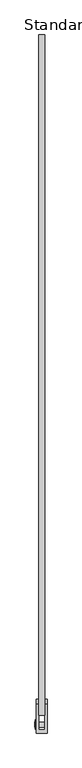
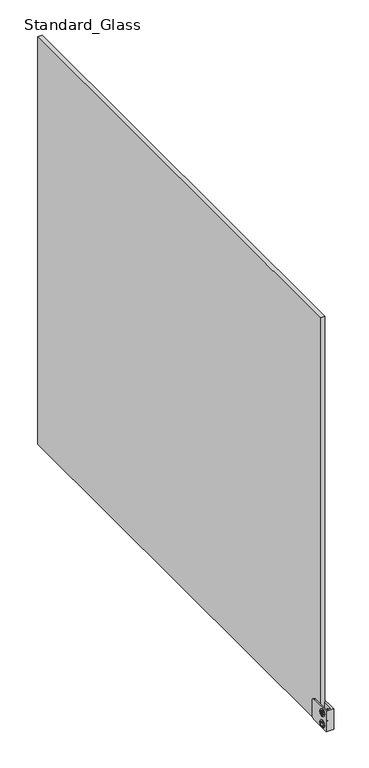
"""IFC4 building model written with IfcOpenShell, lengths in millimetres: railing geometry, Baluster-Excess-Fill-Straight-Panel-VIVA : Standard_Glass."""

from ifc_helpers import new_model, si_unit, point, frame, origin, place, context, project, spatial, polyline, circle_curve, ellipse_curve, trimmed, outline, extrude, source, transform, mapped, element, save
from ifc_brep_helpers import plane_surface, cylinder_surface, revolved_surface, advanced_brep


def standard_glass_423f5456(model_context):
    return source(origin(), model_context, "Body", "SolidModel", [
        advanced_brep(
        [(36.7665, -1044.7442278, 138.7358896), (24.0665, -1044.7442278, 138.7358896), (24.0665, -1037.653336, 138.7358896), (36.7665, -1037.653336, 138.7358896), (24.0665, -1048.606571, 138.7358896), (24.0665, -1033.7909928, 138.7358896), (23.199388, -1042.8548573, 138.7358896), (36.7665, -1042.8548573, 138.7358896), (36.7665, -1039.5427065, 138.7358896), (23.199388, -1039.5427065, 138.7358896), (23.2316551, -1048.606571, 138.7358896), (21.9503831, -1047.325299, 138.7358896), (21.9503831, -1035.0722649, 138.7358896), (23.2316551, -1033.7909928, 138.7358896), (21.9503831, -1045.4973775, 138.7358896), (21.9503831, -1036.9001864, 138.7358896), (23.199388, -1045.4973775, 138.7358896), (23.199388, -1036.9001864, 138.7358896)],
        [
            (0, 1),
            (1, 2, circle_curve(frame((24.0665, -1041.1987819, 138.7358896), z_axis=(1.0, 0.0, 0.0), x_axis=(0.0, 1.0, 0.0)), 3.5454459)),
            (2, 3),
            (3, 0, circle_curve(frame((36.7665, -1041.1987819, 138.7358896), z_axis=(-1.0, 0.0, 0.0), x_axis=(0.0, 1.0, 0.0)), 3.5454459)),
            (2, 1, circle_curve(frame((24.0665, -1041.1987819, 138.7358896), z_axis=(1.0, 0.0, 0.0), x_axis=(0.0, 1.0, 0.0)), 3.5454459)),
            (0, 3, circle_curve(frame((36.7665, -1041.1987819, 138.7358896), z_axis=(-1.0, 0.0, 0.0), x_axis=(0.0, 1.0, 0.0)), 3.5454459)),
            (1, 4),
            (4, 5, circle_curve(frame((24.0665, -1041.1987819, 138.7358896), z_axis=(1.0, 0.0, 0.0), x_axis=(0.0, 1.0, 0.0)), 7.4077891)),
            (5, 2),
            (5, 4, circle_curve(frame((24.0665, -1041.1987819, 138.7358896), z_axis=(1.0, 0.0, 0.0), x_axis=(0.0, 1.0, 0.0)), 7.4077891)),
            (6, 7),
            (7, 8, circle_curve(frame((36.7665, -1041.1987819, 138.7358896), z_axis=(1.0, 0.0, 0.0), x_axis=(0.0, 1.0, 0.0)), 1.6560754)),
            (8, 9),
            (9, 6, circle_curve(frame((23.199388, -1041.1987819, 138.7358896), z_axis=(-1.0, 0.0, 0.0), x_axis=(0.0, 1.0, 0.0)), 1.6560754)),
            (8, 7, circle_curve(frame((36.7665, -1041.1987819, 138.7358896), z_axis=(1.0, 0.0, 0.0), x_axis=(0.0, 1.0, 0.0)), 1.6560754)),
            (6, 9, circle_curve(frame((23.199388, -1041.1987819, 138.7358896), z_axis=(-1.0, 0.0, 0.0), x_axis=(0.0, 1.0, 0.0)), 1.6560754)),
            (10, 11, circle_curve(frame((23.2316551, -1047.325299, 138.7358896), z_axis=(0.0, 0.0, -1.0), x_axis=(0.0, -1.0, 0.0)), 1.281272)),
            (11, 12, circle_curve(frame((21.9503831, -1041.1987819, 138.7358896), z_axis=(1.0, 0.0, 0.0), x_axis=(0.0, 1.0, 0.0)), 6.1265171)),
            (12, 13, circle_curve(frame((23.2316551, -1035.0722649, 138.7358896), z_axis=(0.0, 0.0, -1.0), x_axis=(0.0, 1.0, 0.0)), 1.281272)),
            (13, 10, circle_curve(frame((23.2316551, -1041.1987819, 138.7358896), z_axis=(-1.0, 0.0, 0.0), x_axis=(0.0, 1.0, 0.0)), 7.4077891)),
            (12, 11, circle_curve(frame((21.9503831, -1041.1987819, 138.7358896), z_axis=(1.0, 0.0, 0.0), x_axis=(0.0, 1.0, 0.0)), 6.1265171)),
            (10, 13, circle_curve(frame((23.2316551, -1041.1987819, 138.7358896), z_axis=(-1.0, 0.0, 0.0), x_axis=(0.0, 1.0, 0.0)), 7.4077891)),
            (11, 14),
            (14, 15, circle_curve(frame((21.9503831, -1041.1987819, 138.7358896), z_axis=(1.0, 0.0, 0.0), x_axis=(0.0, 1.0, 0.0)), 4.2985955)),
            (15, 12),
            (15, 14, circle_curve(frame((21.9503831, -1041.1987819, 138.7358896), z_axis=(1.0, 0.0, 0.0), x_axis=(0.0, 1.0, 0.0)), 4.2985955)),
            (4, 10),
            (13, 5),
            (7, 0),
            (3, 8),
            (14, 16),
            (16, 17, circle_curve(frame((23.199388, -1041.1987819, 138.7358896), z_axis=(1.0, 0.0, 0.0), x_axis=(0.0, 1.0, 0.0)), 4.2985955)),
            (17, 15),
            (17, 16, circle_curve(frame((23.199388, -1041.1987819, 138.7358896), z_axis=(1.0, 0.0, 0.0), x_axis=(0.0, 1.0, 0.0)), 4.2985955)),
            (16, 6),
            (9, 17),
        ],
        [
            cylinder_surface(frame((27.5632331, -1041.1987819, 138.7358896), z_axis=(1.0, 0.0, 0.0), x_axis=(0.0, 1.0, 0.0)), 3.5454459),
            plane_surface(frame((24.0665, -1041.1987819, 138.7358896), z_axis=(1.0, 0.0, 0.0), x_axis=(0.0, 1.0, 0.0))),
            revolved_surface(polyline([(36.7665, -1039.5427065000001, 138.7358896), (23.199388, -1039.5427065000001, 138.7358896)]), (27.5632331, -1041.1987819, 138.7358896), (1.0, 0.0, 0.0)),
            revolved_surface(trimmed(ellipse_curve(frame((23.2316551, -1035.0722649, 138.7358896), z_axis=(0.0, 0.0, -1.0), x_axis=(0.0, 1.0, 0.0)), 1.281272, 1.281272), [point((21.9503831, -1035.0722649, 138.7358896))], [point((23.2316551, -1033.7909928, 138.7358896))], True, "CARTESIAN"), (27.5632331, -1041.1987819, 138.7358896), (1.0, 0.0, 0.0)),
            plane_surface(frame((21.9503831, -1041.1987819, 138.7358896), z_axis=(-1.0, 0.0, 0.0), x_axis=(0.0, 1.0, 0.0))),
            cylinder_surface(frame((27.5632331, -1041.1987819, 138.7358896), z_axis=(1.0, 0.0, 0.0), x_axis=(0.0, 1.0, 0.0)), 7.4077891),
            plane_surface(frame((36.7665, -1041.1987819, 138.7358896), z_axis=(1.0, 0.0, 0.0), x_axis=(0.0, 1.0, 0.0))),
            revolved_surface(polyline([(23.199388, -1036.9001864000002, 138.7358896), (21.9503831, -1036.9001864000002, 138.7358896)]), (27.5632331, -1041.1987819, 138.7358896), (1.0, 0.0, 0.0)),
            plane_surface(frame((23.199388, -1041.1987819, 138.7358896), z_axis=(-1.0, 0.0, 0.0), x_axis=(0.0, 1.0, 0.0))),
        ],
        [
            (0, [[1, 2, 3, 4]]),
            (0, [[-3, 5, -1, 6]]),
            (1, [[7, 8, 9, -2]]),
            (1, [[-9, 10, -7, -5]]),
            (2, [[11, 12, 13, 14]]),
            (2, [[-13, 15, -11, 16]]),
            (3, [[17, 18, 19, 20]]),
            (3, [[-19, 21, -17, 22]]),
            (4, [[23, 24, 25, -18]]),
            (4, [[-25, 26, -23, -21]]),
            (5, [[27, -20, 28, -8]]),
            (5, [[-28, -22, -27, -10]]),
            (6, [[29, -4, 30, -12]]),
            (6, [[-30, -6, -29, -15]]),
            (7, [[31, 32, 33, -24]]),
            (7, [[-33, 34, -31, -26]]),
            (8, [[35, -14, 36, -32]]),
            (8, [[-36, -16, -35, -34]]),
        ],
    ),
        advanced_brep(
        [(36.7665, -1044.7442278, 114.1296396), (24.0665, -1044.7442278, 114.1296396), (24.0665, -1037.653336, 114.1296396), (36.7665, -1037.653336, 114.1296396), (24.0665, -1048.606571, 114.1296396), (24.0665, -1033.7909928, 114.1296396), (23.199388, -1042.8548573, 114.1296396), (36.7665, -1042.8548573, 114.1296396), (36.7665, -1039.5427065, 114.1296396), (23.199388, -1039.5427065, 114.1296396), (23.2316551, -1048.606571, 114.1296396), (21.9503831, -1047.325299, 114.1296396), (21.9503831, -1035.0722649, 114.1296396), (23.2316551, -1033.7909928, 114.1296396), (21.9503831, -1045.4973775, 114.1296396), (21.9503831, -1036.9001864, 114.1296396), (23.199388, -1045.4973775, 114.1296396), (23.199388, -1036.9001864, 114.1296396)],
        [
            (0, 1),
            (1, 2, circle_curve(frame((24.0665, -1041.1987819, 114.1296396), z_axis=(1.0, 0.0, 0.0), x_axis=(0.0, 1.0, 0.0)), 3.5454459)),
            (2, 3),
            (3, 0, circle_curve(frame((36.7665, -1041.1987819, 114.1296396), z_axis=(-1.0, 0.0, 0.0), x_axis=(0.0, 1.0, 0.0)), 3.5454459)),
            (2, 1, circle_curve(frame((24.0665, -1041.1987819, 114.1296396), z_axis=(1.0, 0.0, 0.0), x_axis=(0.0, 1.0, 0.0)), 3.5454459)),
            (0, 3, circle_curve(frame((36.7665, -1041.1987819, 114.1296396), z_axis=(-1.0, 0.0, 0.0), x_axis=(0.0, 1.0, 0.0)), 3.5454459)),
            (1, 4),
            (4, 5, circle_curve(frame((24.0665, -1041.1987819, 114.1296396), z_axis=(1.0, 0.0, 0.0), x_axis=(0.0, 1.0, 0.0)), 7.4077891)),
            (5, 2),
            (5, 4, circle_curve(frame((24.0665, -1041.1987819, 114.1296396), z_axis=(1.0, 0.0, 0.0), x_axis=(0.0, 1.0, 0.0)), 7.4077891)),
            (6, 7),
            (7, 8, circle_curve(frame((36.7665, -1041.1987819, 114.1296396), z_axis=(1.0, 0.0, 0.0), x_axis=(0.0, 1.0, 0.0)), 1.6560754)),
            (8, 9),
            (9, 6, circle_curve(frame((23.199388, -1041.1987819, 114.1296396), z_axis=(-1.0, 0.0, 0.0), x_axis=(0.0, 1.0, 0.0)), 1.6560754)),
            (8, 7, circle_curve(frame((36.7665, -1041.1987819, 114.1296396), z_axis=(1.0, 0.0, 0.0), x_axis=(0.0, 1.0, 0.0)), 1.6560754)),
            (6, 9, circle_curve(frame((23.199388, -1041.1987819, 114.1296396), z_axis=(-1.0, 0.0, 0.0), x_axis=(0.0, 1.0, 0.0)), 1.6560754)),
            (10, 11, circle_curve(frame((23.2316551, -1047.325299, 114.1296396), z_axis=(0.0, 0.0, -1.0), x_axis=(0.0, -1.0, 0.0)), 1.281272)),
            (11, 12, circle_curve(frame((21.9503831, -1041.1987819, 114.1296396), z_axis=(1.0, 0.0, 0.0), x_axis=(0.0, 1.0, 0.0)), 6.1265171)),
            (12, 13, circle_curve(frame((23.2316551, -1035.0722649, 114.1296396), z_axis=(0.0, 0.0, -1.0), x_axis=(0.0, 1.0, 0.0)), 1.281272)),
            (13, 10, circle_curve(frame((23.2316551, -1041.1987819, 114.1296396), z_axis=(-1.0, 0.0, 0.0), x_axis=(0.0, 1.0, 0.0)), 7.4077891)),
            (12, 11, circle_curve(frame((21.9503831, -1041.1987819, 114.1296396), z_axis=(1.0, 0.0, 0.0), x_axis=(0.0, 1.0, 0.0)), 6.1265171)),
            (10, 13, circle_curve(frame((23.2316551, -1041.1987819, 114.1296396), z_axis=(-1.0, 0.0, 0.0), x_axis=(0.0, 1.0, 0.0)), 7.4077891)),
            (11, 14),
            (14, 15, circle_curve(frame((21.9503831, -1041.1987819, 114.1296396), z_axis=(1.0, 0.0, 0.0), x_axis=(0.0, 1.0, 0.0)), 4.2985955)),
            (15, 12),
            (15, 14, circle_curve(frame((21.9503831, -1041.1987819, 114.1296396), z_axis=(1.0, 0.0, 0.0), x_axis=(0.0, 1.0, 0.0)), 4.2985955)),
            (7, 0),
            (3, 8),
            (4, 10),
            (13, 5),
            (14, 16),
            (16, 17, circle_curve(frame((23.199388, -1041.1987819, 114.1296396), z_axis=(1.0, 0.0, 0.0), x_axis=(0.0, 1.0, 0.0)), 4.2985955)),
            (17, 15),
            (17, 16, circle_curve(frame((23.199388, -1041.1987819, 114.1296396), z_axis=(1.0, 0.0, 0.0), x_axis=(0.0, 1.0, 0.0)), 4.2985955)),
            (16, 6),
            (9, 17),
        ],
        [
            cylinder_surface(frame((27.5632331, -1041.1987819, 114.1296396), z_axis=(1.0, 0.0, 0.0), x_axis=(0.0, 1.0, 0.0)), 3.5454459),
            plane_surface(frame((24.0665, -1041.1987819, 114.1296396), z_axis=(1.0, 0.0, 0.0), x_axis=(0.0, 1.0, 0.0))),
            revolved_surface(polyline([(36.7665, -1039.5427065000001, 114.1296396), (23.199388, -1039.5427065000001, 114.1296396)]), (27.5632331, -1041.1987819, 114.1296396), (1.0, 0.0, 0.0)),
            revolved_surface(trimmed(ellipse_curve(frame((23.2316551, -1035.0722649, 114.1296396), z_axis=(0.0, 0.0, -1.0), x_axis=(0.0, 1.0, 0.0)), 1.281272, 1.281272), [point((21.9503831, -1035.0722649, 114.1296396))], [point((23.2316551, -1033.7909928, 114.1296396))], True, "CARTESIAN"), (27.5632331, -1041.1987819, 114.1296396), (1.0, 0.0, 0.0)),
            plane_surface(frame((21.9503831, -1041.1987819, 114.1296396), z_axis=(-1.0, 0.0, 0.0), x_axis=(0.0, 1.0, 0.0))),
            plane_surface(frame((36.7665, -1041.1987819, 114.1296396), z_axis=(1.0, 0.0, 0.0), x_axis=(0.0, 1.0, 0.0))),
            cylinder_surface(frame((27.5632331, -1041.1987819, 114.1296396), z_axis=(1.0, 0.0, 0.0), x_axis=(0.0, 1.0, 0.0)), 7.4077891),
            revolved_surface(polyline([(23.199388, -1036.9001864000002, 114.1296396), (21.9503831, -1036.9001864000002, 114.1296396)]), (27.5632331, -1041.1987819, 114.1296396), (1.0, 0.0, 0.0)),
            plane_surface(frame((23.199388, -1041.1987819, 114.1296396), z_axis=(-1.0, 0.0, 0.0), x_axis=(0.0, 1.0, 0.0))),
        ],
        [
            (0, [[1, 2, 3, 4]]),
            (0, [[-3, 5, -1, 6]]),
            (1, [[7, 8, 9, -2]]),
            (1, [[-9, 10, -7, -5]]),
            (2, [[11, 12, 13, 14]]),
            (2, [[-13, 15, -11, 16]]),
            (3, [[17, 18, 19, 20]]),
            (3, [[-19, 21, -17, 22]]),
            (4, [[23, 24, 25, -18]]),
            (4, [[-25, 26, -23, -21]]),
            (5, [[27, -4, 28, -12]]),
            (5, [[-28, -6, -27, -15]]),
            (6, [[29, -20, 30, -8]]),
            (6, [[-30, -22, -29, -10]]),
            (7, [[31, 32, 33, -24]]),
            (7, [[-33, 34, -31, -26]]),
            (8, [[35, -14, 36, -32]]),
            (8, [[-36, -16, -35, -34]]),
        ],
    ),
        extrude(outline(polyline([(-1045.2927102, 114.1296396), (-1043.2457461, 117.6750855), (-1039.1518178, 117.6750855), (-1037.1048536, 114.1296396), (-1039.1518178, 110.5841937), (-1043.2457461, 110.5841937), (-1045.2927102, 114.1296396)])), frame((21.7024185, 0.0, 0.0), z_axis=(1.0, 0.0, 0.0), x_axis=(0.0, 1.0, 0.0)), (0.0, 0.0, 1.0), 1.4969696),
        advanced_brep(
        [(24.0665, -1053.8321267, 148.6577646), (24.0665, -1009.3821267, 148.6577646), (24.0665, -1003.0321267, 142.3077646), (24.0665, -1003.0321267, 110.5577646), (24.0665, -1009.3821267, 104.2077646), (24.0665, -1053.8321267, 104.2077646), (39.9415, -1053.8321267, 148.6577646), (39.9415, -1053.8321267, 104.2077646), (39.9415, -1009.3821267, 104.2077646), (39.9415, -1003.0321267, 110.5577646), (39.9415, -1003.0321267, 142.3077646), (39.9415, -1009.3821267, 148.6577646), (27.2415, -1009.3821267, 104.2077646), (27.2415, -1049.1140463, 104.2077646), (36.7665, -1049.1140463, 104.2077646), (36.7665, -1009.3821267, 104.2077646), (27.2415, -1049.1140463, 148.6577646), (36.7665, -1049.1140463, 148.6577646), (27.2415, -1003.0321267, 110.5577646), (27.2415, -1003.0321267, 142.3077646), (27.2415, -1009.3821267, 148.6577646), (36.7665, -1009.3821267, 148.6577646), (36.7665, -1003.0321267, 142.3077646), (36.7665, -1003.0321267, 110.5577646)],
        [
            (0, 1),
            (1, 2, circle_curve(frame((24.0665, -1009.3821267, 142.3077646), z_axis=(-1.0, 0.0, 0.0), x_axis=(0.0, 1.0, 0.0)), 6.35)),
            (2, 3),
            (3, 4, circle_curve(frame((24.0665, -1009.3821267, 110.5577646), z_axis=(-1.0, 0.0, 0.0), x_axis=(0.0, 1.0, 0.0)), 6.35)),
            (4, 5),
            (5, 0),
            (6, 7),
            (7, 8),
            (8, 9, circle_curve(frame((39.9415, -1009.3821267, 110.5577646), z_axis=(1.0, 0.0, 0.0), x_axis=(0.0, 1.0, 0.0)), 6.35)),
            (9, 10),
            (10, 11, circle_curve(frame((39.9415, -1009.3821267, 142.3077646), z_axis=(1.0, 0.0, 0.0), x_axis=(0.0, 1.0, 0.0)), 6.35)),
            (11, 6),
            (5, 7),
            (6, 0),
            (4, 12),
            (12, 13),
            (13, 14),
            (14, 15),
            (15, 8),
            (13, 16),
            (16, 17),
            (17, 14),
            (12, 18, circle_curve(frame((27.2415, -1009.3821267, 110.5577646), z_axis=(1.0, 0.0, 0.0), x_axis=(0.0, 1.0, 0.0)), 6.35)),
            (18, 19),
            (19, 20, circle_curve(frame((27.2415, -1009.3821267, 142.3077646), z_axis=(1.0, 0.0, 0.0), x_axis=(0.0, 1.0, 0.0)), 6.35)),
            (20, 16),
            (17, 21),
            (21, 22, circle_curve(frame((36.7665, -1009.3821267, 142.3077646), z_axis=(-1.0, 0.0, 0.0), x_axis=(0.0, 1.0, 0.0)), 6.35)),
            (22, 23),
            (23, 15, circle_curve(frame((36.7665, -1009.3821267, 110.5577646), z_axis=(-1.0, 0.0, 0.0), x_axis=(0.0, 1.0, 0.0)), 6.35)),
            (23, 9),
            (3, 18),
            (22, 10),
            (2, 19),
            (21, 11),
            (1, 20),
        ],
        [
            plane_surface(frame((24.0665, -1053.8321267, 104.2077646), z_axis=(-1.0, 0.0, 0.0), x_axis=(0.0, 0.0, -1.0))),
            plane_surface(frame((39.9415, -1053.8321267, 104.2077646), z_axis=(1.0, 0.0, 0.0), x_axis=(0.0, 0.0, 1.0))),
            plane_surface(frame((24.0665, -1053.8321267, 148.6577646), z_axis=(0.0, -1.0, 0.0), x_axis=(1.0, 0.0, 0.0))),
            plane_surface(frame((24.0665, -1053.8321267, 104.2077646), z_axis=(0.0, 0.0, -1.0), x_axis=(1.0, 0.0, 0.0))),
            plane_surface(frame((36.7665, -1049.1140463, 161.3577646), z_axis=(0.0, 1.0, 0.0), x_axis=(0.0, 0.0, -1.0))),
            plane_surface(frame((27.2415, -1049.1140463, 161.3577646), z_axis=(1.0, 0.0, 0.0), x_axis=(0.0, 0.0, -1.0))),
            plane_surface(frame((36.7665, -990.3321267, 161.3577646), z_axis=(-1.0, 0.0, 0.0), x_axis=(0.0, 0.0, -1.0))),
            cylinder_surface(frame((39.9415, -1009.3821267, 110.5577646), z_axis=(-1.0, 0.0, 0.0), x_axis=(0.0, 1.0, 0.0)), 6.35),
            plane_surface(frame((24.0665, -1003.0321267, 110.5577646), z_axis=(0.0, 1.0, 0.0), x_axis=(1.0, 0.0, 0.0))),
            cylinder_surface(frame((39.9415, -1009.3821267, 142.3077646), z_axis=(-1.0, 0.0, 0.0), x_axis=(0.0, 1.0, 0.0)), 6.35),
            plane_surface(frame((24.0665, -1009.3821267, 148.6577646), z_axis=(0.0, 0.0, 1.0), x_axis=(1.0, 0.0, 0.0))),
        ],
        [
            (0, [[1, 2, 3, 4, 5, 6]]),
            (1, [[7, 8, 9, 10, 11, 12]]),
            (2, [[13, -7, 14, -6]]),
            (3, [[15, 16, 17, 18, 19, -8, -13, -5]]),
            (4, [[-17, 20, 21, 22]]),
            (5, [[-16, 23, 24, 25, 26, -20]]),
            (6, [[27, 28, 29, 30, -18, -22]]),
            (7, [[-19, -30, 31, -9]]),
            (7, [[32, -23, -15, -4]]),
            (8, [[-31, -29, 33, -10]]),
            (8, [[34, -24, -32, -3]]),
            (9, [[-33, -28, 35, -11]]),
            (9, [[36, -25, -34, -2]]),
            (10, [[-14, -12, -35, -27, -21, -26, -36, -1]]),
        ],
    ),
        extrude(outline(polyline([(36.7665, -1.0851207), (36.7665, -1026.8890463), (27.2415, -1026.8890463), (27.2415, -1.0851207), (36.7665, -1.0851207)])), frame((0.0, 0.0, 101.6), z_axis=(0.0, 0.0, 1.0), x_axis=(1.0, 0.0, 0.0)), (0.0, 0.0, 1.0), 901.7),
    ])


if __name__ == "__main__":
    model = new_model("IFC4")
    model_context = context("Model", 3, world=origin())
    ifc_project = project(units=[si_unit("LENGTHUNIT", "METRE", prefix="MILLI")], contexts=[model_context])
    site = spatial("IfcSite", under=ifc_project)
    building = spatial("IfcBuilding", under=site)
    placement = place(None, origin())
    standard_glass_shape = standard_glass_423f5456(model_context)
    element("IfcRailing", 1, ObjectType="Baluster-Excess-Fill-Straight-Panel-VIVA : Standard_Glass", at=placement, inside=building, context=model_context, shape_type="MappedRepresentation", body=[
        mapped(standard_glass_shape, transform((0.0, 0.0, 0.0), x_axis=(1.0, 0.0, 0.0), y_axis=(0.0, 1.0, 0.0), z_axis=(0.0, 0.0, 1.0))),
    ])
    save(model, "model.ifc")
